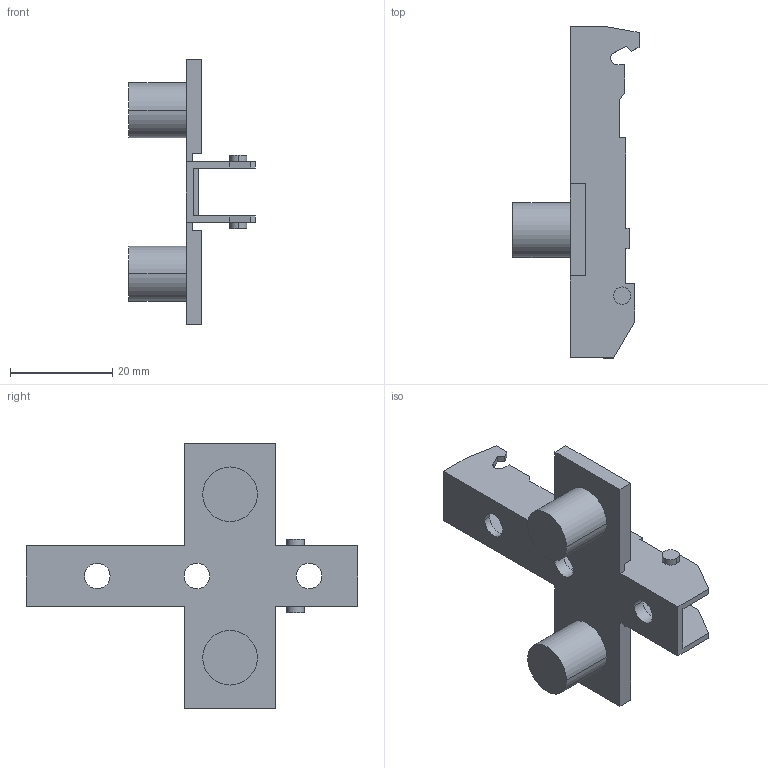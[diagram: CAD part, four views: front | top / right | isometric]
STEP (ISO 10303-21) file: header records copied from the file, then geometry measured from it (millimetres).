
FILE_DESCRIPTION (( 'STEP AP214' ), '1' );
FILE_NAME ('Eco Kreuzmontageplatte LR37_32_Dübel 10mm_H03.step', '2010-11-18T10:06:56', ( 'grass' ), ( '' ), 'SwSTEP 2.0', 'SolidWorks 2010', '' );
FILE_SCHEMA (( 'AUTOMOTIVE_DESIGN' ));
Length unit declared in the file: millimetre
Products named in the file (1): Eco Kreuzmontageplatte LR37_32_Dübel 10mm_H03
Bounding box: 24.7 x 65 x 52 mm (x, y, z)
Volume: 6587.3 mm3; surface area: 6916 mm2
Topology: 1 solids, 1 shells, 102 faces, 272 edges, 178 vertices
Faces by surface type: plane 74, cylinder 22, cone 6
Entity records: 3192 total; most frequent: CARTESIAN_POINT 553, ORIENTED_EDGE 544, DIRECTION 528, EDGE_CURVE 272, LINE 222, VECTOR 222, VERTEX_POINT 178, AXIS2_PLACEMENT_3D 153
